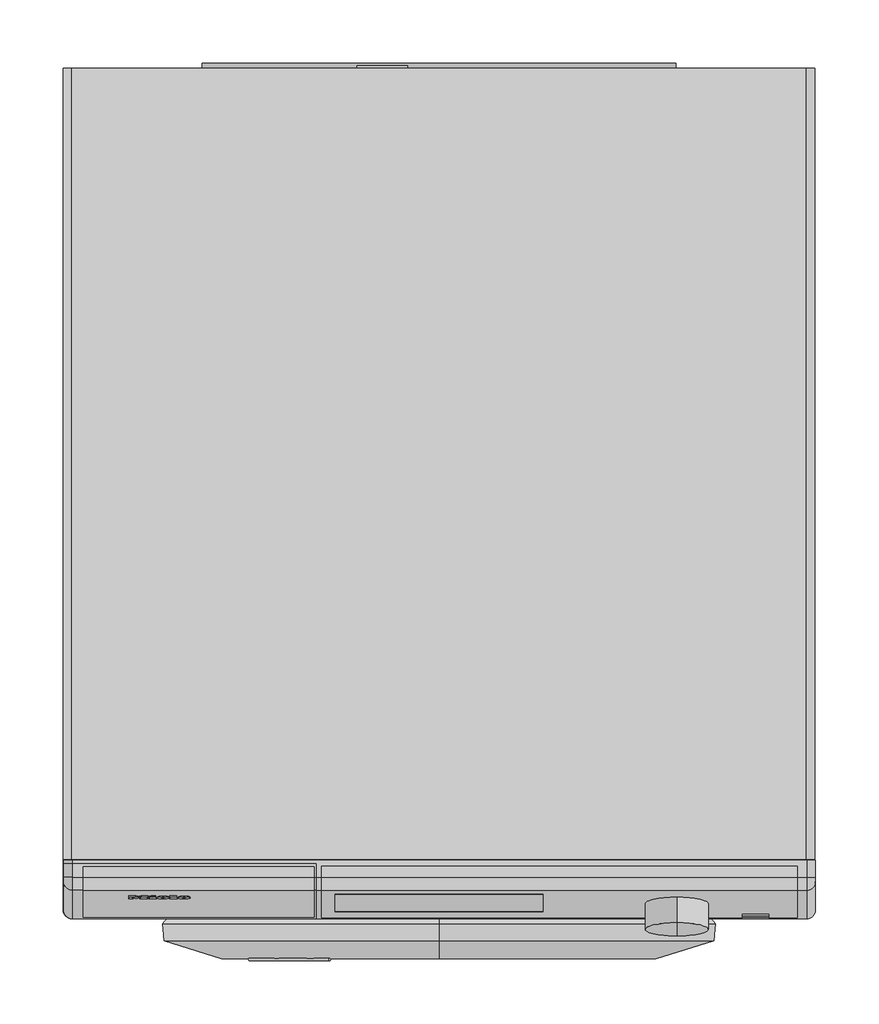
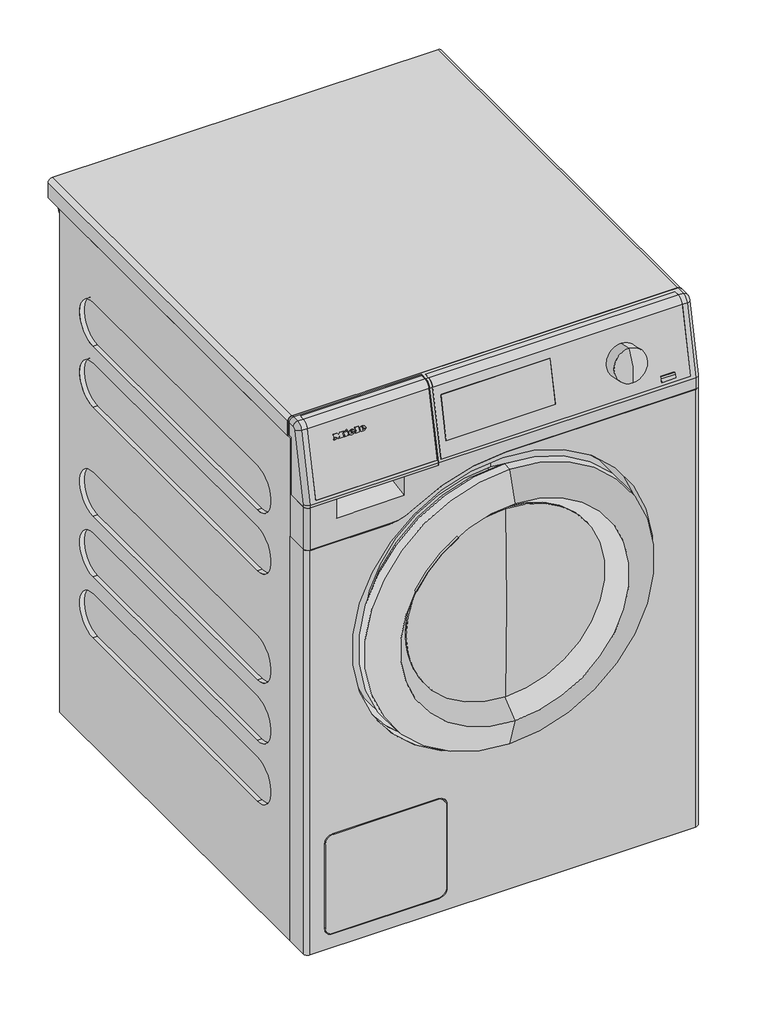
# Not in any storey: 1 proxy.
"""IFC4 building model written with IfcOpenShell, lengths in millimetres."""

from ifc_helpers import new_model, si_unit, origin, place, context, project, spatial, transform, mapped, element, save
from components import specialty_equipment_c7f8bacf, specialty_equipment_d2f98325, specialty_equipment_5b245b4f

model = new_model("IFC4")

# Units and contexts
model_context = context("Model", 3, world=origin())
ifc_project = project(units=[si_unit("LENGTHUNIT", "METRE", prefix="MILLI")], contexts=[model_context])

# Site, building
site = spatial("IfcSite", under=ifc_project)
building = spatial("IfcBuilding", under=site)

# Proxy
placement = place(None, origin())
specialty_equipment_shape = specialty_equipment_c7f8bacf(model_context)
specialty_equipment_2_shape = specialty_equipment_d2f98325(model_context)
specialty_equipment_3_shape = specialty_equipment_5b245b4f(model_context)
element("IfcBuildingElementProxy", 1, Name="11049680_D_PWM507DP_SST : 51507351_D_11049680_PWM507DP_SST", ObjectType="11049680_D_PWM507DP_SST : 51507351_D_11049680_PWM507DP_SST", at=placement, inside=building, context=model_context, shape_type="MappedRepresentation", body=[
    mapped(specialty_equipment_shape, transform((0.0, 0.0, 0.0), x_axis=(1.0, 0.0, 0.0), y_axis=(0.0, 1.0, 0.0), z_axis=(0.0, 0.0, 1.0))),
    mapped(specialty_equipment_2_shape, transform((0.0, 0.0, 0.0), x_axis=(1.0, 0.0, 0.0), y_axis=(0.0, 1.0, 0.0), z_axis=(0.0, 0.0, 1.0))),
    mapped(specialty_equipment_3_shape, transform((0.0, 0.0, 0.0), x_axis=(1.0, 0.0, 0.0), y_axis=(0.0, 1.0, 0.0), z_axis=(0.0, 0.0, 1.0))),
])

save(model, "model.ifc")
